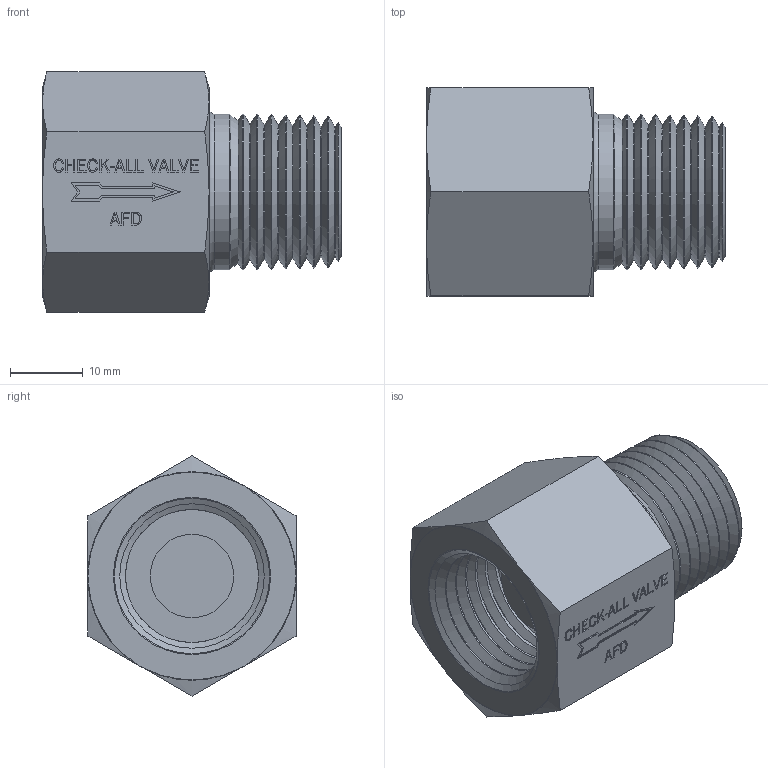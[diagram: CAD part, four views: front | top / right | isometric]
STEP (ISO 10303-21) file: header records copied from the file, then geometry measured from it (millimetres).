
FILE_DESCRIPTION(/* description */ ('Unknown'),/* implementation_level */ '2;1');
FILE_NAME(/* name */ 'AFDXXOR.500XX-WEB',/* time_stamp */ '2022-10-03T11:26:30-05:00',/* author */ ('Unknown'),/* organization */ ('Unknown'),/* preprocessor_version */ 'ST-DEVELOPER v18.102',/* originating_system */ 'Solid Edge',/* authorisation */ 'Unknown');
FILE_SCHEMA (('AUTOMOTIVE_DESIGN {1 0 10303 214 3 1 1}'));
Length unit declared in the file: inch
Products named in the file (1): AFDXXOR.500XX-WEB
Bounding box: 41.05 x 28.57 x 33 mm (x, y, z)
Volume: 17102.3 mm3; surface area: 7312.4 mm2
Topology: 1 solids, 1 shells, 331 faces, 822 edges, 521 vertices
Faces by surface type: plane 201, cone 68, cylinder 36, torus 20, bspline 6
Full cylindrical faces by diameter (mm): 8.839 x1, 11.43 x1, 15.875 x1, 18.265 x6, 21.336 x3
Entity records: 11644 total; most frequent: CARTESIAN_POINT 2310, ORIENTED_EDGE 1454, DIRECTION 1250, EDGE_CURVE 727, VERTEX_POINT 498, AXIS2_PLACEMENT_3D 446, EDGE_LOOP 431, FACE_BOUND 431
